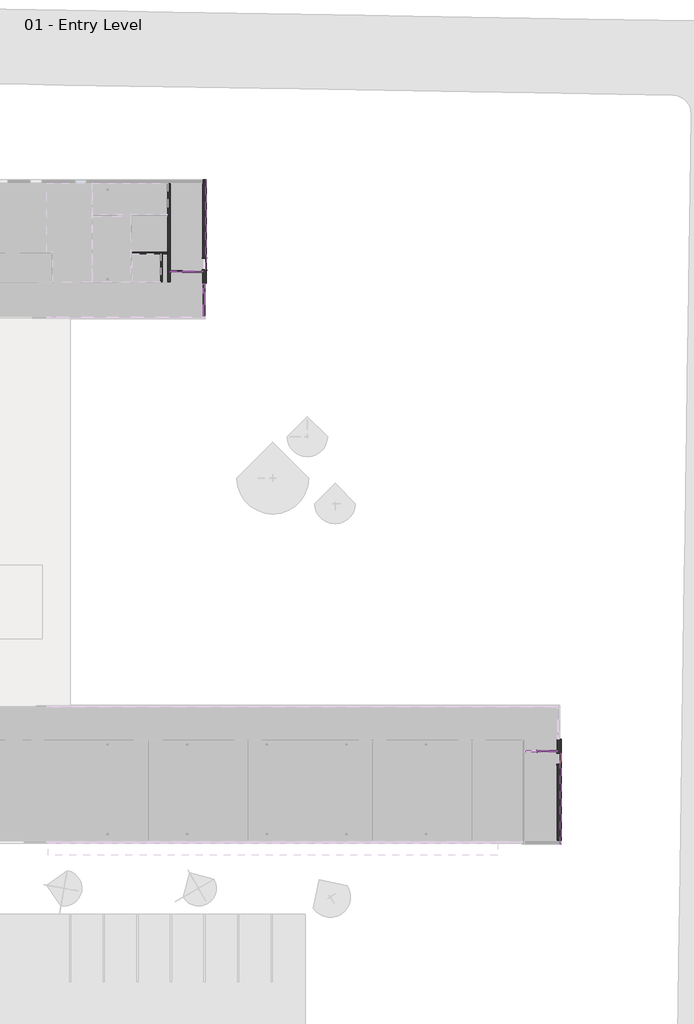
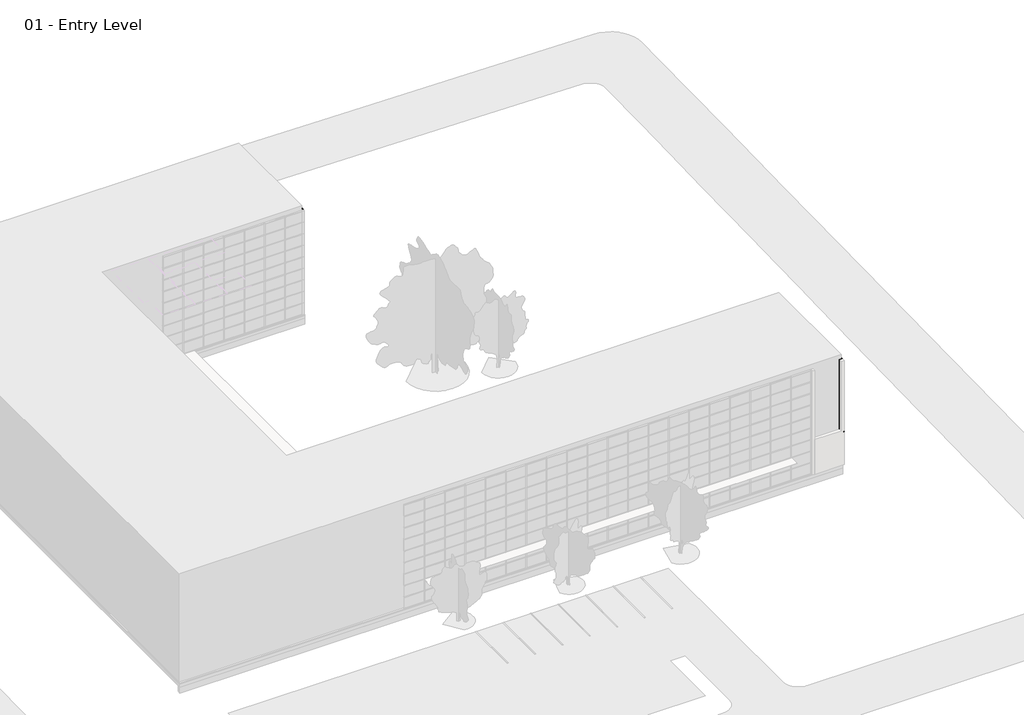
# One storey, part 31 of 35: 70 members, 22 plates, 5 walls, 4 proxies, 3 doors.
"""IFC4 building model written with IfcOpenShell, lengths in millimetres."""

from ifc_helpers import new_model, si_unit, frame, origin, origin_with_axes, place, context, project, spatial, polyline, outline, extrude, faceted_brep, transform, mapped, element, save
from components import curtain_wall_sgl_glass_curtain_wall_sgl_glass_c2d4b377, door_4e13689c, door_90af15fc, member_2b49869a, member_75074519, member_18e22e2d, member_9193c932, member_c33c434a, member_2ee2964b, member_9822c4e5, member_b50b2218, member_6186cc23, member_5d67b9fc, member_a50b3cda, member_c327c56d, member_410c6227, member_73c23c35, member_bcb6a316, member_d3323a85, member_7bd2cd2c, member_6be37683, member_e7b2e991, member_6c34f49c, member_dff87739, member_76223ac8, system_panel_glazed_bb8d5bd2, system_panel_glazed_f6796d4b, system_panel_glazed_d0ecad2d, system_panel_glazed_85a31dd6, system_panel_glazed_01db37db, system_panel_glazed_0a464ab8, system_panel_glazed_652e8fc4, system_panel_glazed_8dc8626f, system_panel_glazed_bb2f95a6, system_panel_glazed_de38c793, system_panel_glazed_3fe504bb, system_panel_glazed_00df446d

model = new_model("IFC4")

# Units and contexts
model_context = context("Model", 3, world=origin())
ifc_project = project(units=[si_unit("LENGTHUNIT", "METRE", prefix="MILLI")], contexts=[model_context])

# Site, building, storey
site = spatial("IfcSite", under=ifc_project)
building = spatial("IfcBuilding", under=site)
storey = spatial("IfcBuildingStorey", under=building, Name="01 - Entry Level", Elevation=0.0)

# Proxies
placement = place(None, origin())
element("IfcBuildingElementProxy", 1, Name="Reveal", ObjectType="Reveal", at=placement, inside=storey, context=model_context, shape_type="SweptSolid", body=[
    extrude(outline(polyline([(66310.7957476, -254.075), (66259.9957476, -254.075), (66259.9957476, 7204.0), (66310.7957476, 7204.0), (66310.7957476, -254.075)])), frame((0.0, 0.0, 3429.0), z_axis=(0.0, 0.0, 1.0), x_axis=(1.0, 0.0, 0.0)), (0.0, 0.0, 1.0), 76.2),
])
element("IfcBuildingElementProxy", 2, Name="Reveal", ObjectType="Reveal", at=placement, inside=storey, context=model_context, shape_type="SweptSolid", body=[
    extrude(outline(polyline([(66259.9957476, 2490.7125), (66310.7957476, 2490.7125), (66310.7957476, 2414.5125), (66259.9957476, 2414.5125), (66259.9957476, 2490.7125)])), origin_with_axes(), (0.0, 0.0, 1.0), 9753.6),
])
element("IfcBuildingElementProxy", 3, Name="Reveal", ObjectType="Reveal", at=placement, inside=storey, context=model_context, shape_type="SweptSolid", body=[
    extrude(outline(polyline([(37303.9957476, 51336.5), (37354.7957476, 51336.5), (37354.7957476, 51260.3), (37303.9957476, 51260.3), (37303.9957476, 51336.5)])), origin_with_axes(), (0.0, 0.0, 1.0), 9753.6),
])
element("IfcBuildingElementProxy", 4, Name="Reveal", ObjectType="Reveal", at=placement, inside=storey, context=model_context, shape_type="SweptSolid", body=[
    extrude(outline(polyline([(37354.7957476, 46675.6), (37303.9957476, 46675.6), (37303.9957476, 54032.075), (37354.7957476, 54032.075), (37354.7957476, 46675.6)])), frame((0.0, 0.0, 3581.4), z_axis=(0.0, 0.0, 1.0), x_axis=(1.0, 0.0, 0.0)), (0.0, 0.0, 1.0), 76.2),
])

# Doors
curtain_wall_sgl_glass_curtain_wall_sgl_glass_shape = curtain_wall_sgl_glass_curtain_wall_sgl_glass_c2d4b377(model_context)
element("IfcDoor", 5, ObjectType="Curtain Wall Sgl Glass : Curtain Wall Sgl Glass", at=placement, inside=storey, context=model_context, shape_type="MappedRepresentation", body=[
    mapped(curtain_wall_sgl_glass_curtain_wall_sgl_glass_shape, transform((34925.9207476, 46523.2, 0.0), x_axis=(-1.0, 0.0, 0.0), y_axis=(0.0, -1.0, 0.0), z_axis=(0.0, 0.0, 1.0))),
])
door_shape = door_4e13689c(model_context)
element("IfcDoor", 6, ObjectType="Single-Flush : 36\" x 84\"", at=placement, inside=storey, context=model_context, shape_type="MappedRepresentation", body=[
    mapped(door_shape, transform((37200.8082476, 47132.8, 0.0), x_axis=(0.0, -1.0, 0.0), y_axis=(1.0, 0.0, 0.0), z_axis=(0.0, 0.0, 1.0))),
])
door_2_shape = door_90af15fc(model_context)
element("IfcDoor", 7, ObjectType="Single-Flush : 36\" x 84\"", at=placement, inside=storey, context=model_context, shape_type="MappedRepresentation", body=[
    mapped(door_2_shape, transform((66156.8082476, 6746.8, 0.0), x_axis=(0.0, 1.0, 0.0), y_axis=(-1.0, 0.0, 0.0), z_axis=(0.0, 0.0, 1.0))),
])

# Members
member_shape = member_2b49869a(model_context)
element("IfcMember", 8, ObjectType="Rectangular Mullion : 2.5\" x 5\" rectangular", at=placement, inside=storey, context=model_context, shape_type="MappedRepresentation", body=[
    mapped(member_shape, transform((37148.4207476, 44783.3, 9753.6), x_axis=(0.0, 1.0, 0.0), y_axis=(1.0, 0.0, 0.0), z_axis=(0.0, 0.0, -1.0))),
])
member_2_shape = member_75074519(model_context)
element("IfcMember", 9, ObjectType="Rectangular Mullion : 2.5\" x 5\" rectangular", at=placement, inside=storey, context=model_context, shape_type="MappedRepresentation", body=[
    mapped(member_2_shape, transform((37148.4207476, 45545.3, 9753.6), x_axis=(0.0, 1.0, 0.0), y_axis=(1.0, 0.0, 0.0), z_axis=(0.0, 0.0, -1.0))),
])
member_3_shape = member_18e22e2d(model_context)
element("IfcMember", 10, ObjectType="Rectangular Mullion : 2.5\" x 5\" rectangular", at=placement, inside=storey, context=model_context, shape_type="MappedRepresentation", body=[
    mapped(member_3_shape, transform((35414.8707476, 46523.2, 2438.4), x_axis=(1.0, 0.0, 0.0), y_axis=(0.0, -1.0, 0.0), z_axis=(0.0, 0.0, -1.0))),
])
element("IfcMember", 11, ObjectType="Rectangular Mullion : 2.5\" x 5\" rectangular", at=placement, inside=storey, context=model_context, shape_type="MappedRepresentation", body=[
    mapped(member_3_shape, transform((64358.1707476, 7356.4, 2438.4), x_axis=(1.0, 0.0, 0.0), y_axis=(0.0, -1.0, 0.0), z_axis=(0.0, 0.0, -1.0))),
])
member_4_shape = member_9193c932(model_context)
element("IfcMember", 12, ObjectType="Rectangular Mullion : 2.5\" x 5\" rectangular", at=placement, inside=storey, context=model_context, shape_type="MappedRepresentation", body=[
    mapped(member_4_shape, transform((66002.8207476, 7356.4, 2438.4), x_axis=(1.0, 0.0, 0.0), y_axis=(0.0, -1.0, 0.0), z_axis=(0.0, 0.0, -1.0))),
])
element("IfcMember", 13, ObjectType="Rectangular Mullion : 2.5\" x 5\" rectangular", at=placement, inside=storey, context=model_context, shape_type="MappedRepresentation", body=[
    mapped(member_4_shape, transform((34405.2207476, 46523.2, 3403.6), x_axis=(-1.0, 0.0, 0.0), y_axis=(0.0, -1.0, 0.0), z_axis=(0.0, 0.0, 1.0))),
])
element("IfcMember", 14, ObjectType="Rectangular Mullion : 2.5\" x 5\" rectangular", at=placement, inside=storey, context=model_context, shape_type="MappedRepresentation", body=[
    mapped(member_4_shape, transform((37046.8207476, 46523.2, 2438.4), x_axis=(1.0, 0.0, 0.0), y_axis=(0.0, -1.0, 0.0), z_axis=(0.0, 0.0, -1.0))),
])
element("IfcMember", 15, ObjectType="Rectangular Mullion : 2.5\" x 5\" rectangular", at=placement, inside=storey, context=model_context, shape_type="MappedRepresentation", body=[
    mapped(member_shape, transform((37148.4207476, 44783.3, 0.0), x_axis=(0.0, 1.0, 0.0), y_axis=(1.0, 0.0, 0.0), z_axis=(0.0, 0.0, -1.0))),
])
element("IfcMember", 16, ObjectType="Rectangular Mullion : 2.5\" x 5\" rectangular", at=placement, inside=storey, context=model_context, shape_type="MappedRepresentation", body=[
    mapped(member_shape, transform((37148.4207476, 44783.3, 1219.2), x_axis=(0.0, 1.0, 0.0), y_axis=(1.0, 0.0, 0.0), z_axis=(0.0, 0.0, -1.0))),
])
element("IfcMember", 17, ObjectType="Rectangular Mullion : 2.5\" x 5\" rectangular", at=placement, inside=storey, context=model_context, shape_type="MappedRepresentation", body=[
    mapped(member_shape, transform((37148.4207476, 44783.3, 2438.4), x_axis=(0.0, 1.0, 0.0), y_axis=(1.0, 0.0, 0.0), z_axis=(0.0, 0.0, -1.0))),
])
element("IfcMember", 18, ObjectType="Rectangular Mullion : 2.5\" x 5\" rectangular", at=placement, inside=storey, context=model_context, shape_type="MappedRepresentation", body=[
    mapped(member_shape, transform((37148.4207476, 44783.3, 3657.6), x_axis=(0.0, 1.0, 0.0), y_axis=(1.0, 0.0, 0.0), z_axis=(0.0, 0.0, -1.0))),
])
element("IfcMember", 19, ObjectType="Rectangular Mullion : 2.5\" x 5\" rectangular", at=placement, inside=storey, context=model_context, shape_type="MappedRepresentation", body=[
    mapped(member_shape, transform((37148.4207476, 44783.3, 4876.8), x_axis=(0.0, 1.0, 0.0), y_axis=(1.0, 0.0, 0.0), z_axis=(0.0, 0.0, -1.0))),
])
element("IfcMember", 20, ObjectType="Rectangular Mullion : 2.5\" x 5\" rectangular", at=placement, inside=storey, context=model_context, shape_type="MappedRepresentation", body=[
    mapped(member_shape, transform((37148.4207476, 44783.3, 6096.0), x_axis=(0.0, 1.0, 0.0), y_axis=(1.0, 0.0, 0.0), z_axis=(0.0, 0.0, -1.0))),
])
element("IfcMember", 21, ObjectType="Rectangular Mullion : 2.5\" x 5\" rectangular", at=placement, inside=storey, context=model_context, shape_type="MappedRepresentation", body=[
    mapped(member_shape, transform((37148.4207476, 44783.3, 7315.2), x_axis=(0.0, 1.0, 0.0), y_axis=(1.0, 0.0, 0.0), z_axis=(0.0, 0.0, -1.0))),
])
element("IfcMember", 22, ObjectType="Rectangular Mullion : 2.5\" x 5\" rectangular", at=placement, inside=storey, context=model_context, shape_type="MappedRepresentation", body=[
    mapped(member_shape, transform((37148.4207476, 44783.3, 8534.4), x_axis=(0.0, 1.0, 0.0), y_axis=(1.0, 0.0, 0.0), z_axis=(0.0, 0.0, -1.0))),
])
member_5_shape = member_c33c434a(model_context)
element("IfcMember", 23, ObjectType="Rectangular Mullion : 2.5\" x 5\" rectangular", at=placement, inside=storey, context=model_context, shape_type="MappedRepresentation", body=[
    mapped(member_5_shape, transform((37148.4207476, 45481.8, 10972.8), x_axis=(0.0, 0.0, 1.0), y_axis=(1.0, 0.0, 0.0), z_axis=(0.0, 1.0, 0.0))),
])
element("IfcMember", 24, ObjectType="Rectangular Mullion : 2.5\" x 5\" rectangular", at=placement, inside=storey, context=model_context, shape_type="MappedRepresentation", body=[
    mapped(member_5_shape, transform((37148.4207476, 44815.05, 0.0), x_axis=(0.0, 0.0, -1.0), y_axis=(1.0, 0.0, 0.0), z_axis=(0.0, -1.0, 0.0))),
])
member_6_shape = member_2ee2964b(model_context)
element("IfcMember", 25, ObjectType="Rectangular Mullion : 2.5\" x 5\" rectangular", at=placement, inside=storey, context=model_context, shape_type="MappedRepresentation", body=[
    mapped(member_6_shape, transform((37148.4207476, 45481.8, 1219.2), x_axis=(0.0, 0.0, 1.0), y_axis=(1.0, 0.0, 0.0), z_axis=(0.0, 1.0, 0.0))),
])
element("IfcMember", 26, ObjectType="Rectangular Mullion : 2.5\" x 5\" rectangular", at=placement, inside=storey, context=model_context, shape_type="MappedRepresentation", body=[
    mapped(member_6_shape, transform((37148.4207476, 45481.8, 2438.4), x_axis=(0.0, 0.0, 1.0), y_axis=(1.0, 0.0, 0.0), z_axis=(0.0, 1.0, 0.0))),
])
element("IfcMember", 27, ObjectType="Rectangular Mullion : 2.5\" x 5\" rectangular", at=placement, inside=storey, context=model_context, shape_type="MappedRepresentation", body=[
    mapped(member_6_shape, transform((37148.4207476, 45481.8, 3657.6), x_axis=(0.0, 0.0, 1.0), y_axis=(1.0, 0.0, 0.0), z_axis=(0.0, 1.0, 0.0))),
])
element("IfcMember", 28, ObjectType="Rectangular Mullion : 2.5\" x 5\" rectangular", at=placement, inside=storey, context=model_context, shape_type="MappedRepresentation", body=[
    mapped(member_6_shape, transform((37148.4207476, 45481.8, 4876.8), x_axis=(0.0, 0.0, 1.0), y_axis=(1.0, 0.0, 0.0), z_axis=(0.0, 1.0, 0.0))),
])
element("IfcMember", 29, ObjectType="Rectangular Mullion : 2.5\" x 5\" rectangular", at=placement, inside=storey, context=model_context, shape_type="MappedRepresentation", body=[
    mapped(member_6_shape, transform((37148.4207476, 45481.8, 6096.0), x_axis=(0.0, 0.0, 1.0), y_axis=(1.0, 0.0, 0.0), z_axis=(0.0, 1.0, 0.0))),
])
element("IfcMember", 30, ObjectType="Rectangular Mullion : 2.5\" x 5\" rectangular", at=placement, inside=storey, context=model_context, shape_type="MappedRepresentation", body=[
    mapped(member_6_shape, transform((37148.4207476, 45481.8, 7315.2), x_axis=(0.0, 0.0, 1.0), y_axis=(1.0, 0.0, 0.0), z_axis=(0.0, 1.0, 0.0))),
])
element("IfcMember", 31, ObjectType="Rectangular Mullion : 2.5\" x 5\" rectangular", at=placement, inside=storey, context=model_context, shape_type="MappedRepresentation", body=[
    mapped(member_6_shape, transform((37148.4207476, 45481.8, 8534.4), x_axis=(0.0, 0.0, 1.0), y_axis=(1.0, 0.0, 0.0), z_axis=(0.0, 1.0, 0.0))),
])
element("IfcMember", 32, ObjectType="Rectangular Mullion : 2.5\" x 5\" rectangular", at=placement, inside=storey, context=model_context, shape_type="MappedRepresentation", body=[
    mapped(member_6_shape, transform((37148.4207476, 45481.8, 9753.6), x_axis=(0.0, 0.0, 1.0), y_axis=(1.0, 0.0, 0.0), z_axis=(0.0, 1.0, 0.0))),
])
element("IfcMember", 33, ObjectType="Rectangular Mullion : 2.5\" x 5\" rectangular", at=placement, inside=storey, context=model_context, shape_type="MappedRepresentation", body=[
    mapped(member_2_shape, transform((37148.4207476, 45545.3, 0.0), x_axis=(0.0, 1.0, 0.0), y_axis=(1.0, 0.0, 0.0), z_axis=(0.0, 0.0, -1.0))),
])
element("IfcMember", 34, ObjectType="Rectangular Mullion : 2.5\" x 5\" rectangular", at=placement, inside=storey, context=model_context, shape_type="MappedRepresentation", body=[
    mapped(member_2_shape, transform((37148.4207476, 45545.3, 1219.2), x_axis=(0.0, 1.0, 0.0), y_axis=(1.0, 0.0, 0.0), z_axis=(0.0, 0.0, -1.0))),
])
element("IfcMember", 35, ObjectType="Rectangular Mullion : 2.5\" x 5\" rectangular", at=placement, inside=storey, context=model_context, shape_type="MappedRepresentation", body=[
    mapped(member_2_shape, transform((37148.4207476, 45545.3, 2438.4), x_axis=(0.0, 1.0, 0.0), y_axis=(1.0, 0.0, 0.0), z_axis=(0.0, 0.0, -1.0))),
])
element("IfcMember", 36, ObjectType="Rectangular Mullion : 2.5\" x 5\" rectangular", at=placement, inside=storey, context=model_context, shape_type="MappedRepresentation", body=[
    mapped(member_2_shape, transform((37148.4207476, 45545.3, 3657.6), x_axis=(0.0, 1.0, 0.0), y_axis=(1.0, 0.0, 0.0), z_axis=(0.0, 0.0, -1.0))),
])
element("IfcMember", 37, ObjectType="Rectangular Mullion : 2.5\" x 5\" rectangular", at=placement, inside=storey, context=model_context, shape_type="MappedRepresentation", body=[
    mapped(member_2_shape, transform((37148.4207476, 45545.3, 4876.8), x_axis=(0.0, 1.0, 0.0), y_axis=(1.0, 0.0, 0.0), z_axis=(0.0, 0.0, -1.0))),
])
element("IfcMember", 38, ObjectType="Rectangular Mullion : 2.5\" x 5\" rectangular", at=placement, inside=storey, context=model_context, shape_type="MappedRepresentation", body=[
    mapped(member_2_shape, transform((37148.4207476, 45545.3, 6096.0), x_axis=(0.0, 1.0, 0.0), y_axis=(1.0, 0.0, 0.0), z_axis=(0.0, 0.0, -1.0))),
])
element("IfcMember", 39, ObjectType="Rectangular Mullion : 2.5\" x 5\" rectangular", at=placement, inside=storey, context=model_context, shape_type="MappedRepresentation", body=[
    mapped(member_2_shape, transform((37148.4207476, 45545.3, 7315.2), x_axis=(0.0, 1.0, 0.0), y_axis=(1.0, 0.0, 0.0), z_axis=(0.0, 0.0, -1.0))),
])
element("IfcMember", 40, ObjectType="Rectangular Mullion : 2.5\" x 5\" rectangular", at=placement, inside=storey, context=model_context, shape_type="MappedRepresentation", body=[
    mapped(member_2_shape, transform((37148.4207476, 45545.3, 8534.4), x_axis=(0.0, 1.0, 0.0), y_axis=(1.0, 0.0, 0.0), z_axis=(0.0, 0.0, -1.0))),
])
member_7_shape = member_9822c4e5(model_context)
element("IfcMember", 41, ObjectType="Rectangular Mullion : 2.5\" x 5\" rectangular", at=placement, inside=storey, context=model_context, shape_type="MappedRepresentation", body=[
    mapped(member_7_shape, transform((37148.4207476, 44751.55, 10972.8), x_axis=(0.0, 0.0, 1.0), y_axis=(1.0, 0.0, 0.0), z_axis=(0.0, 1.0, 0.0))),
])
member_8_shape = member_b50b2218(model_context)
element("IfcMember", 42, ObjectType="Rectangular Mullion : 2.5\" x 5\" rectangular", at=placement, inside=storey, context=model_context, shape_type="MappedRepresentation", body=[
    mapped(member_8_shape, transform((37148.4207476, 44751.55, 1219.2), x_axis=(0.0, 0.0, 1.0), y_axis=(1.0, 0.0, 0.0), z_axis=(0.0, 1.0, 0.0))),
])
element("IfcMember", 43, ObjectType="Rectangular Mullion : 2.5\" x 5\" rectangular", at=placement, inside=storey, context=model_context, shape_type="MappedRepresentation", body=[
    mapped(member_8_shape, transform((37148.4207476, 44751.55, 2438.4), x_axis=(0.0, 0.0, 1.0), y_axis=(1.0, 0.0, 0.0), z_axis=(0.0, 1.0, 0.0))),
])
element("IfcMember", 44, ObjectType="Rectangular Mullion : 2.5\" x 5\" rectangular", at=placement, inside=storey, context=model_context, shape_type="MappedRepresentation", body=[
    mapped(member_8_shape, transform((37148.4207476, 44751.55, 3657.6), x_axis=(0.0, 0.0, 1.0), y_axis=(1.0, 0.0, 0.0), z_axis=(0.0, 1.0, 0.0))),
])
element("IfcMember", 45, ObjectType="Rectangular Mullion : 2.5\" x 5\" rectangular", at=placement, inside=storey, context=model_context, shape_type="MappedRepresentation", body=[
    mapped(member_8_shape, transform((37148.4207476, 44751.55, 4876.8), x_axis=(0.0, 0.0, 1.0), y_axis=(1.0, 0.0, 0.0), z_axis=(0.0, 1.0, 0.0))),
])
element("IfcMember", 46, ObjectType="Rectangular Mullion : 2.5\" x 5\" rectangular", at=placement, inside=storey, context=model_context, shape_type="MappedRepresentation", body=[
    mapped(member_8_shape, transform((37148.4207476, 44751.55, 6096.0), x_axis=(0.0, 0.0, 1.0), y_axis=(1.0, 0.0, 0.0), z_axis=(0.0, 1.0, 0.0))),
])
element("IfcMember", 47, ObjectType="Rectangular Mullion : 2.5\" x 5\" rectangular", at=placement, inside=storey, context=model_context, shape_type="MappedRepresentation", body=[
    mapped(member_8_shape, transform((37148.4207476, 44751.55, 7315.2), x_axis=(0.0, 0.0, 1.0), y_axis=(1.0, 0.0, 0.0), z_axis=(0.0, 1.0, 0.0))),
])
element("IfcMember", 48, ObjectType="Rectangular Mullion : 2.5\" x 5\" rectangular", at=placement, inside=storey, context=model_context, shape_type="MappedRepresentation", body=[
    mapped(member_8_shape, transform((37148.4207476, 44751.55, 8534.4), x_axis=(0.0, 0.0, 1.0), y_axis=(1.0, 0.0, 0.0), z_axis=(0.0, 1.0, 0.0))),
])
element("IfcMember", 49, ObjectType="Rectangular Mullion : 2.5\" x 5\" rectangular", at=placement, inside=storey, context=model_context, shape_type="MappedRepresentation", body=[
    mapped(member_8_shape, transform((37148.4207476, 44751.55, 9753.6), x_axis=(0.0, 0.0, 1.0), y_axis=(1.0, 0.0, 0.0), z_axis=(0.0, 1.0, 0.0))),
])
member_9_shape = member_6186cc23(model_context)
element("IfcMember", 50, ObjectType="Rectangular Mullion : 2.5\" x 5\" rectangular", at=placement, inside=storey, context=model_context, shape_type="MappedRepresentation", body=[
    mapped(member_9_shape, transform((35414.8707476, 46523.2, 0.0), x_axis=(1.0, 0.0, 0.0), y_axis=(0.0, -1.0, 0.0), z_axis=(0.0, 0.0, -1.0))),
])
member_10_shape = member_5d67b9fc(model_context)
element("IfcMember", 51, ObjectType="Rectangular Mullion : 2.5\" x 5\" rectangular", at=placement, inside=storey, context=model_context, shape_type="MappedRepresentation", body=[
    mapped(member_10_shape, transform((35414.8707476, 46523.2, 2165.35), x_axis=(1.0, 0.0, 0.0), y_axis=(0.0, -1.0, 0.0), z_axis=(0.0, 0.0, -1.0))),
])
member_11_shape = member_a50b3cda(model_context)
element("IfcMember", 52, ObjectType="Rectangular Mullion : 2.5\" x 5\" rectangular", at=placement, inside=storey, context=model_context, shape_type="MappedRepresentation", body=[
    mapped(member_11_shape, transform((37046.8207476, 46523.2, 0.0), x_axis=(1.0, 0.0, 0.0), y_axis=(0.0, -1.0, 0.0), z_axis=(0.0, 0.0, -1.0))),
])
member_12_shape = member_c327c56d(model_context)
element("IfcMember", 53, ObjectType="Rectangular Mullion : 2.5\" x 5\" rectangular", at=placement, inside=storey, context=model_context, shape_type="MappedRepresentation", body=[
    mapped(member_12_shape, transform((37046.8207476, 46523.2, 2165.35), x_axis=(1.0, 0.0, 0.0), y_axis=(0.0, -1.0, 0.0), z_axis=(0.0, 0.0, -1.0))),
])
member_13_shape = member_410c6227(model_context)
element("IfcMember", 54, ObjectType="Rectangular Mullion : 2.5\" x 5\" rectangular", at=placement, inside=storey, context=model_context, shape_type="MappedRepresentation", body=[
    mapped(member_13_shape, transform((35383.1207476, 46523.2, 2438.4), x_axis=(0.0, 0.0, 1.0), y_axis=(0.0, -1.0, 0.0), z_axis=(1.0, 0.0, 0.0))),
])
element("IfcMember", 55, ObjectType="Rectangular Mullion : 2.5\" x 5\" rectangular", at=placement, inside=storey, context=model_context, shape_type="MappedRepresentation", body=[
    mapped(member_13_shape, transform((35383.1207476, 46523.2, 2165.35), x_axis=(0.0, 0.0, 1.0), y_axis=(0.0, -1.0, 0.0), z_axis=(1.0, 0.0, 0.0))),
])
member_14_shape = member_73c23c35(model_context)
element("IfcMember", 56, ObjectType="Rectangular Mullion : 2.5\" x 5\" rectangular", at=placement, inside=storey, context=model_context, shape_type="MappedRepresentation", body=[
    mapped(member_14_shape, transform((35383.1207476, 46523.2, 3403.6), x_axis=(0.0, 0.0, 1.0), y_axis=(0.0, -1.0, 0.0), z_axis=(1.0, 0.0, 0.0))),
])
element("IfcMember", 57, ObjectType="Rectangular Mullion : 2.5\" x 5\" rectangular", at=placement, inside=storey, context=model_context, shape_type="MappedRepresentation", body=[
    mapped(member_12_shape, transform((34405.2207476, 46523.2, 2438.4), x_axis=(-1.0, 0.0, 0.0), y_axis=(0.0, -1.0, 0.0), z_axis=(0.0, 0.0, 1.0))),
])
element("IfcMember", 58, ObjectType="Rectangular Mullion : 2.5\" x 5\" rectangular", at=placement, inside=storey, context=model_context, shape_type="MappedRepresentation", body=[
    mapped(member_11_shape, transform((34405.2207476, 46523.2, 2165.35), x_axis=(-1.0, 0.0, 0.0), y_axis=(0.0, -1.0, 0.0), z_axis=(0.0, 0.0, 1.0))),
])
member_15_shape = member_bcb6a316(model_context)
element("IfcMember", 59, ObjectType="Rectangular Mullion : 2.5\" x 5\" rectangular", at=placement, inside=storey, context=model_context, shape_type="MappedRepresentation", body=[
    mapped(member_15_shape, transform((35726.0207476, 46523.2, 0.0), x_axis=(0.0, 0.0, -1.0), y_axis=(0.0, -1.0, 0.0), z_axis=(-1.0, 0.0, 0.0))),
])
member_16_shape = member_d3323a85(model_context)
element("IfcMember", 60, ObjectType="Rectangular Mullion : 2.5\" x 5\" rectangular", at=placement, inside=storey, context=model_context, shape_type="MappedRepresentation", body=[
    mapped(member_16_shape, transform((35446.6207476, 46523.2, 0.0), x_axis=(0.0, 0.0, -1.0), y_axis=(0.0, -1.0, 0.0), z_axis=(-1.0, 0.0, 0.0))),
])
element("IfcMember", 61, ObjectType="Rectangular Mullion : 2.5\" x 5\" rectangular", at=placement, inside=storey, context=model_context, shape_type="MappedRepresentation", body=[
    mapped(member_15_shape, transform((36983.3207476, 46523.2, 3403.6), x_axis=(0.0, 0.0, 1.0), y_axis=(0.0, -1.0, 0.0), z_axis=(1.0, 0.0, 0.0))),
])
element("IfcMember", 62, ObjectType="Rectangular Mullion : 2.5\" x 5\" rectangular", at=placement, inside=storey, context=model_context, shape_type="MappedRepresentation", body=[
    mapped(member_16_shape, transform((35726.0207476, 46523.2, 3403.6), x_axis=(0.0, 0.0, 1.0), y_axis=(0.0, -1.0, 0.0), z_axis=(1.0, 0.0, 0.0))),
])
member_17_shape = member_7bd2cd2c(model_context)
element("IfcMember", 63, ObjectType="Rectangular Mullion : 2.5\" x 5\" rectangular", at=placement, inside=storey, context=model_context, shape_type="MappedRepresentation", body=[
    mapped(member_17_shape, transform((36983.3207476, 46523.2, 2438.4), x_axis=(0.0, 0.0, 1.0), y_axis=(0.0, -1.0, 0.0), z_axis=(1.0, 0.0, 0.0))),
])
member_18_shape = member_6be37683(model_context)
element("IfcMember", 64, ObjectType="Rectangular Mullion : 2.5\" x 5\" rectangular", at=placement, inside=storey, context=model_context, shape_type="MappedRepresentation", body=[
    mapped(member_18_shape, transform((35726.0207476, 46523.2, 2438.4), x_axis=(0.0, 0.0, 1.0), y_axis=(0.0, -1.0, 0.0), z_axis=(1.0, 0.0, 0.0))),
])
element("IfcMember", 65, ObjectType="Rectangular Mullion : 2.5\" x 5\" rectangular", at=placement, inside=storey, context=model_context, shape_type="MappedRepresentation", body=[
    mapped(member_13_shape, transform((64326.4207476, 7356.4, 2438.4), x_axis=(0.0, 0.0, 1.0), y_axis=(0.0, -1.0, 0.0), z_axis=(1.0, 0.0, 0.0))),
])
element("IfcMember", 66, ObjectType="Rectangular Mullion : 2.5\" x 5\" rectangular", at=placement, inside=storey, context=model_context, shape_type="MappedRepresentation", body=[
    mapped(member_13_shape, transform((64326.4207476, 7356.4, 2165.35), x_axis=(0.0, 0.0, 1.0), y_axis=(0.0, -1.0, 0.0), z_axis=(1.0, 0.0, 0.0))),
])
element("IfcMember", 67, ObjectType="Rectangular Mullion : 2.5\" x 5\" rectangular", at=placement, inside=storey, context=model_context, shape_type="MappedRepresentation", body=[
    mapped(member_14_shape, transform((64326.4207476, 7356.4, 3403.6), x_axis=(0.0, 0.0, 1.0), y_axis=(0.0, -1.0, 0.0), z_axis=(1.0, 0.0, 0.0))),
])
element("IfcMember", 68, ObjectType="Rectangular Mullion : 2.5\" x 5\" rectangular", at=placement, inside=storey, context=model_context, shape_type="MappedRepresentation", body=[
    mapped(member_9_shape, transform((64358.1707476, 7356.4, 0.0), x_axis=(1.0, 0.0, 0.0), y_axis=(0.0, -1.0, 0.0), z_axis=(0.0, 0.0, -1.0))),
])
element("IfcMember", 69, ObjectType="Rectangular Mullion : 2.5\" x 5\" rectangular", at=placement, inside=storey, context=model_context, shape_type="MappedRepresentation", body=[
    mapped(member_10_shape, transform((64358.1707476, 7356.4, 2165.35), x_axis=(1.0, 0.0, 0.0), y_axis=(0.0, -1.0, 0.0), z_axis=(0.0, 0.0, -1.0))),
])
element("IfcMember", 70, ObjectType="Rectangular Mullion : 2.5\" x 5\" rectangular", at=placement, inside=storey, context=model_context, shape_type="MappedRepresentation", body=[
    mapped(member_11_shape, transform((66002.8207476, 7356.4, 0.0), x_axis=(1.0, 0.0, 0.0), y_axis=(0.0, -1.0, 0.0), z_axis=(0.0, 0.0, -1.0))),
])
element("IfcMember", 71, ObjectType="Rectangular Mullion : 2.5\" x 5\" rectangular", at=placement, inside=storey, context=model_context, shape_type="MappedRepresentation", body=[
    mapped(member_12_shape, transform((66002.8207476, 7356.4, 2165.35), x_axis=(1.0, 0.0, 0.0), y_axis=(0.0, -1.0, 0.0), z_axis=(0.0, 0.0, -1.0))),
])
member_19_shape = member_e7b2e991(model_context)
element("IfcMember", 72, ObjectType="Rectangular Mullion : 2.5\" x 5\" rectangular", at=placement, inside=storey, context=model_context, shape_type="MappedRepresentation", body=[
    mapped(member_19_shape, transform((64675.6707476, 7356.4, 0.0), x_axis=(0.0, 0.0, -1.0), y_axis=(0.0, -1.0, 0.0), z_axis=(-1.0, 0.0, 0.0))),
])
member_20_shape = member_6c34f49c(model_context)
element("IfcMember", 73, ObjectType="Rectangular Mullion : 2.5\" x 5\" rectangular", at=placement, inside=storey, context=model_context, shape_type="MappedRepresentation", body=[
    mapped(member_20_shape, transform((64389.9207476, 7356.4, 0.0), x_axis=(0.0, 0.0, -1.0), y_axis=(0.0, -1.0, 0.0), z_axis=(-1.0, 0.0, 0.0))),
])
member_21_shape = member_dff87739(model_context)
element("IfcMember", 74, ObjectType="Rectangular Mullion : 2.5\" x 5\" rectangular", at=placement, inside=storey, context=model_context, shape_type="MappedRepresentation", body=[
    mapped(member_21_shape, transform((64675.6707476, 7356.4, 2438.4), x_axis=(0.0, 0.0, 1.0), y_axis=(0.0, -1.0, 0.0), z_axis=(1.0, 0.0, 0.0))),
])
member_22_shape = member_76223ac8(model_context)
element("IfcMember", 75, ObjectType="Rectangular Mullion : 2.5\" x 5\" rectangular", at=placement, inside=storey, context=model_context, shape_type="MappedRepresentation", body=[
    mapped(member_22_shape, transform((65939.3207476, 7356.4, 2438.4), x_axis=(0.0, 0.0, 1.0), y_axis=(0.0, -1.0, 0.0), z_axis=(1.0, 0.0, 0.0))),
])
element("IfcMember", 76, ObjectType="Rectangular Mullion : 2.5\" x 5\" rectangular", at=placement, inside=storey, context=model_context, shape_type="MappedRepresentation", body=[
    mapped(member_19_shape, transform((65939.3207476, 7356.4, 3403.6), x_axis=(0.0, 0.0, 1.0), y_axis=(0.0, -1.0, 0.0), z_axis=(1.0, 0.0, 0.0))),
])
element("IfcMember", 77, ObjectType="Rectangular Mullion : 2.5\" x 5\" rectangular", at=placement, inside=storey, context=model_context, shape_type="MappedRepresentation", body=[
    mapped(member_20_shape, transform((64675.6707476, 7356.4, 3403.6), x_axis=(0.0, 0.0, 1.0), y_axis=(0.0, -1.0, 0.0), z_axis=(1.0, 0.0, 0.0))),
])

# Plates
system_panel_glazed_shape = system_panel_glazed_bb8d5bd2(model_context)
element("IfcPlate", 78, ObjectType="System Panel : Glazed", at=placement, inside=storey, context=model_context, shape_type="MappedRepresentation", body=[
    mapped(system_panel_glazed_shape, transform((37148.4207476, 45148.425, 63.5), x_axis=(0.0, 1.0, 0.0), y_axis=(-1.0, 0.0, 0.0), z_axis=(0.0, 0.0, 1.0))),
])
element("IfcPlate", 79, ObjectType="System Panel : Glazed", at=placement, inside=storey, context=model_context, shape_type="MappedRepresentation", body=[
    mapped(system_panel_glazed_shape, transform((37148.4207476, 45148.425, 9785.35), x_axis=(0.0, 1.0, 0.0), y_axis=(-1.0, 0.0, 0.0), z_axis=(0.0, 0.0, 1.0))),
])
system_panel_glazed_2_shape = system_panel_glazed_f6796d4b(model_context)
element("IfcPlate", 80, ObjectType="System Panel : Glazed", at=placement, inside=storey, context=model_context, shape_type="MappedRepresentation", body=[
    mapped(system_panel_glazed_2_shape, transform((37148.4207476, 45148.425, 1250.95), x_axis=(0.0, 1.0, 0.0), y_axis=(-1.0, 0.0, 0.0), z_axis=(0.0, 0.0, 1.0))),
])
element("IfcPlate", 81, ObjectType="System Panel : Glazed", at=placement, inside=storey, context=model_context, shape_type="MappedRepresentation", body=[
    mapped(system_panel_glazed_2_shape, transform((37148.4207476, 45148.425, 2470.15), x_axis=(0.0, 1.0, 0.0), y_axis=(-1.0, 0.0, 0.0), z_axis=(0.0, 0.0, 1.0))),
])
element("IfcPlate", 82, ObjectType="System Panel : Glazed", at=placement, inside=storey, context=model_context, shape_type="MappedRepresentation", body=[
    mapped(system_panel_glazed_2_shape, transform((37148.4207476, 45148.425, 3689.35), x_axis=(0.0, 1.0, 0.0), y_axis=(-1.0, 0.0, 0.0), z_axis=(0.0, 0.0, 1.0))),
])
element("IfcPlate", 83, ObjectType="System Panel : Glazed", at=placement, inside=storey, context=model_context, shape_type="MappedRepresentation", body=[
    mapped(system_panel_glazed_2_shape, transform((37148.4207476, 45148.425, 4908.55), x_axis=(0.0, 1.0, 0.0), y_axis=(-1.0, 0.0, 0.0), z_axis=(0.0, 0.0, 1.0))),
])
element("IfcPlate", 84, ObjectType="System Panel : Glazed", at=placement, inside=storey, context=model_context, shape_type="MappedRepresentation", body=[
    mapped(system_panel_glazed_2_shape, transform((37148.4207476, 45148.425, 6127.75), x_axis=(0.0, 1.0, 0.0), y_axis=(-1.0, 0.0, 0.0), z_axis=(0.0, 0.0, 1.0))),
])
element("IfcPlate", 85, ObjectType="System Panel : Glazed", at=placement, inside=storey, context=model_context, shape_type="MappedRepresentation", body=[
    mapped(system_panel_glazed_2_shape, transform((37148.4207476, 45148.425, 7346.95), x_axis=(0.0, 1.0, 0.0), y_axis=(-1.0, 0.0, 0.0), z_axis=(0.0, 0.0, 1.0))),
])
element("IfcPlate", 86, ObjectType="System Panel : Glazed", at=placement, inside=storey, context=model_context, shape_type="MappedRepresentation", body=[
    mapped(system_panel_glazed_2_shape, transform((37148.4207476, 45148.425, 8566.15), x_axis=(0.0, 1.0, 0.0), y_axis=(-1.0, 0.0, 0.0), z_axis=(0.0, 0.0, 1.0))),
])
system_panel_glazed_3_shape = system_panel_glazed_d0ecad2d(model_context)
element("IfcPlate", 87, ObjectType="System Panel : Glazed", at=placement, inside=storey, context=model_context, shape_type="MappedRepresentation", body=[
    mapped(system_panel_glazed_3_shape, transform((66104.4207476, 8667.675, 63.5), x_axis=(0.0, 1.0, 0.0), y_axis=(-1.0, 0.0, 0.0), z_axis=(0.0, 0.0, 1.0))),
])
system_panel_glazed_4_shape = system_panel_glazed_85a31dd6(model_context)
element("IfcPlate", 88, ObjectType="System Panel : Glazed", at=placement, inside=storey, context=model_context, shape_type="MappedRepresentation", body=[
    mapped(system_panel_glazed_4_shape, transform((66104.4207476, 8667.675, 1250.95), x_axis=(0.0, 1.0, 0.0), y_axis=(-1.0, 0.0, 0.0), z_axis=(0.0, 0.0, 1.0))),
])
element("IfcPlate", 89, ObjectType="System Panel : Glazed", at=placement, inside=storey, context=model_context, shape_type="MappedRepresentation", body=[
    mapped(system_panel_glazed_4_shape, transform((66104.4207476, 8667.675, 2470.15), x_axis=(0.0, 1.0, 0.0), y_axis=(-1.0, 0.0, 0.0), z_axis=(0.0, 0.0, 1.0))),
])
element("IfcPlate", 90, ObjectType="System Panel : Glazed", at=placement, inside=storey, context=model_context, shape_type="MappedRepresentation", body=[
    mapped(system_panel_glazed_4_shape, transform((66104.4207476, 8667.675, 3689.35), x_axis=(0.0, 1.0, 0.0), y_axis=(-1.0, 0.0, 0.0), z_axis=(0.0, 0.0, 1.0))),
])
system_panel_glazed_5_shape = system_panel_glazed_01db37db(model_context)
element("IfcPlate", 91, ObjectType="System Panel : Glazed", at=placement, inside=storey, context=model_context, shape_type="MappedRepresentation", body=[
    mapped(system_panel_glazed_5_shape, transform((37148.4207476, 43814.925, 9785.35), x_axis=(0.0, 1.0, 0.0), y_axis=(-1.0, 0.0, 0.0), z_axis=(0.0, 0.0, 1.0))),
])
system_panel_glazed_6_shape = system_panel_glazed_0a464ab8(model_context)
element("IfcPlate", 92, ObjectType="System Panel : Glazed", at=placement, inside=storey, context=model_context, shape_type="MappedRepresentation", body=[
    mapped(system_panel_glazed_6_shape, transform((37148.4207476, 43814.925, 7346.95), x_axis=(0.0, 1.0, 0.0), y_axis=(-1.0, 0.0, 0.0), z_axis=(0.0, 0.0, 1.0))),
])
element("IfcPlate", 93, ObjectType="System Panel : Glazed", at=placement, inside=storey, context=model_context, shape_type="MappedRepresentation", body=[
    mapped(system_panel_glazed_6_shape, transform((37148.4207476, 43814.925, 8566.15), x_axis=(0.0, 1.0, 0.0), y_axis=(-1.0, 0.0, 0.0), z_axis=(0.0, 0.0, 1.0))),
])
system_panel_glazed_7_shape = system_panel_glazed_652e8fc4(model_context)
element("IfcPlate", 94, ObjectType="System Panel : Glazed", at=placement, inside=storey, context=model_context, shape_type="MappedRepresentation", body=[
    mapped(system_panel_glazed_7_shape, transform((34925.9207476, 46523.2, 2470.15), x_axis=(1.0, 0.0, 0.0), y_axis=(0.0, 1.0, 0.0), z_axis=(0.0, 0.0, 1.0))),
])
system_panel_glazed_8_shape = system_panel_glazed_8dc8626f(model_context)
element("IfcPlate", 95, ObjectType="System Panel : Glazed", at=placement, inside=storey, context=model_context, shape_type="MappedRepresentation", body=[
    mapped(system_panel_glazed_8_shape, transform((34925.9207476, 46523.2, 2197.1), x_axis=(1.0, 0.0, 0.0), y_axis=(0.0, 1.0, 0.0), z_axis=(0.0, 0.0, 1.0))),
])
system_panel_glazed_9_shape = system_panel_glazed_bb2f95a6(model_context)
element("IfcPlate", 96, ObjectType="System Panel : Glazed", at=placement, inside=storey, context=model_context, shape_type="MappedRepresentation", body=[
    mapped(system_panel_glazed_9_shape, transform((36214.9707476, 46523.2, 63.5), x_axis=(1.0, 0.0, 0.0), y_axis=(0.0, 1.0, 0.0), z_axis=(0.0, 0.0, 1.0))),
])
system_panel_glazed_10_shape = system_panel_glazed_de38c793(model_context)
element("IfcPlate", 97, ObjectType="System Panel : Glazed", at=placement, inside=storey, context=model_context, shape_type="MappedRepresentation", body=[
    mapped(system_panel_glazed_10_shape, transform((36214.9707476, 46523.2, 2470.15), x_axis=(1.0, 0.0, 0.0), y_axis=(0.0, 1.0, 0.0), z_axis=(0.0, 0.0, 1.0))),
])
system_panel_glazed_11_shape = system_panel_glazed_3fe504bb(model_context)
element("IfcPlate", 98, ObjectType="System Panel : Glazed", at=placement, inside=storey, context=model_context, shape_type="MappedRepresentation", body=[
    mapped(system_panel_glazed_11_shape, transform((65164.6207476, 7356.4, 2470.15), x_axis=(1.0, 0.0, 0.0), y_axis=(0.0, 1.0, 0.0), z_axis=(0.0, 0.0, 1.0))),
])
system_panel_glazed_12_shape = system_panel_glazed_00df446d(model_context)
element("IfcPlate", 99, ObjectType="System Panel : Glazed", at=placement, inside=storey, context=model_context, shape_type="MappedRepresentation", body=[
    mapped(system_panel_glazed_12_shape, transform((65164.6207476, 7356.4, 63.5), x_axis=(1.0, 0.0, 0.0), y_axis=(0.0, 1.0, 0.0), z_axis=(0.0, 0.0, 1.0))),
])

# Walls
element("IfcWall", 100, ObjectType="Exterior - EIFS on CMU", at=placement, inside=storey, context=model_context, shape_type="Brep", body=[
    faceted_brep([(66310.7957476, 8334.3, 0.0), (66310.7957476, 8334.3, 10972.8), (66310.7957476, 53.9, 10972.8), (66310.7957476, 53.9, 3505.2), (66310.7957476, 2414.5125, 3505.2), (66310.7957476, 2414.5125, 9753.6), (66310.7957476, 2490.7125, 9753.6), (66310.7957476, 2490.7125, 3505.2), (66310.7957476, 7204.0, 3505.2), (66310.7957476, 7204.0, 3429.0), (66310.7957476, 2490.7125, 3429.0), (66310.7957476, 2490.7125, 0.0), (66310.7957476, 6289.6, 0.0), (66310.7957476, 6289.6, 2133.6), (66310.7957476, 7204.0, 2133.6), (66310.7957476, 7204.0, 0.0), (66310.7957476, 53.9, 3429.0), (66310.7957476, 53.9, 0.0), (66310.7957476, 2414.5125, 0.0), (66310.7957476, 2414.5125, 3429.0), (66002.8207476, 8334.3, 10972.8), (66002.8207476, 8334.3, 0.0), (66002.8207476, 7204.0, 0.0), (66002.8207476, 7204.0, 2133.6), (66002.8207476, 6289.6, 2133.6), (66002.8207476, 6289.6, 0.0), (66002.8207476, 53.9, 0.0), (66002.8207476, 53.9, 3657.6), (66002.8207476, 53.9, 10972.8), (66259.9957476, 2490.7125, 0.0), (66259.9957476, 2414.5125, 0.0), (66259.9957476, 53.9, 3429.0), (66259.9957476, 53.9, 3505.2), (66259.9957476, 7204.0, 3505.2), (66259.9957476, 7204.0, 3429.0), (66259.9957476, 2490.7125, 3505.2), (66259.9957476, 2490.7125, 9753.6), (66259.9957476, 2414.5125, 9753.6), (66259.9957476, 2414.5125, 3505.2), (66259.9957476, 2414.5125, 3429.0), (66259.9957476, 2490.7125, 3429.0)], [[[0, 1, 2, 3, 4, 5, 6, 7, 8, 9, 10, 11, 12, 13, 14, 15]], [[16, 17, 18, 19]], [[20, 21, 22, 23, 24, 25, 26, 27, 28]], [[21, 0, 15, 22]], [[17, 26, 25, 12, 11, 29, 30, 18]], [[1, 0, 21, 20]], [[2, 1, 20, 28]], [[2, 28, 27, 26, 17, 16, 31, 32, 3]], [[23, 22, 15, 14]], [[24, 23, 14, 13]], [[25, 24, 13, 12]], [[8, 33, 34, 9]], [[34, 33, 35, 36, 37, 38, 32, 31, 39, 30, 29, 40]], [[9, 34, 40, 10]], [[31, 16, 19, 39]], [[33, 8, 7, 35]], [[3, 32, 38, 4]], [[37, 36, 6, 5]], [[37, 5, 4, 38]], [[30, 39, 19, 18]], [[6, 36, 35, 7]], [[40, 29, 11, 10]]]),
])
element("IfcWall", 101, ObjectType="Exterior - EIFS on CMU", at=placement, inside=storey, context=model_context, shape_type="Brep", body=[
    faceted_brep([(37354.7957476, 54032.075, 10972.8), (37354.7957476, 45545.3, 10972.8), (37354.7957476, 45545.3, 0.0), (37354.7957476, 46675.6, 0.0), (37354.7957476, 46675.6, 2133.6), (37354.7957476, 47590.0, 2133.6), (37354.7957476, 47590.0, 0.0), (37354.7957476, 51260.3, 0.0), (37354.7957476, 51260.3, 3581.4), (37354.7957476, 46675.6, 3581.4), (37354.7957476, 46675.6, 3657.6), (37354.7957476, 51260.3, 3657.6), (37354.7957476, 51260.3, 9753.6), (37354.7957476, 51336.5, 9753.6), (37354.7957476, 51336.5, 3657.6), (37354.7957476, 54032.075, 3657.6), (37354.7957476, 51336.5, 0.0), (37354.7957476, 54032.075, 0.0), (37354.7957476, 54032.075, 3581.4), (37354.7957476, 51336.5, 3581.4), (37046.8207476, 45545.3, 10972.8), (37046.8207476, 54032.075, 10972.8), (37046.8207476, 54032.075, 3657.6), (37046.8207476, 54032.075, 0.0), (37046.8207476, 53724.1, 0.0), (37046.8207476, 47590.0, 0.0), (37046.8207476, 47590.0, 2133.6), (37046.8207476, 46675.6, 2133.6), (37046.8207476, 46675.6, 0.0), (37046.8207476, 45545.3, 0.0), (37303.9957476, 51336.5, 0.0), (37303.9957476, 51260.3, 0.0), (37059.5207476, 54032.075, 10972.8), (37303.9957476, 54032.075, 3657.6), (37303.9957476, 54032.075, 3581.4), (37303.9957476, 51260.3, 9753.6), (37303.9957476, 51336.5, 9753.6), (37303.9957476, 51260.3, 3657.6), (37303.9957476, 46675.6, 3657.6), (37303.9957476, 46675.6, 3581.4), (37303.9957476, 51260.3, 3581.4), (37303.9957476, 51336.5, 3581.4), (37303.9957476, 51336.5, 3657.6)], [[[0, 1, 2, 3, 4, 5, 6, 7, 8, 9, 10, 11, 12, 13, 14, 15]], [[16, 17, 18, 19]], [[20, 21, 22, 23, 24, 25, 26, 27, 28, 29]], [[2, 29, 28, 3]], [[23, 17, 16, 30, 31, 7, 6, 25, 24]], [[1, 0, 32, 21, 20]], [[2, 1, 20, 29]], [[17, 23, 22, 21, 32, 0, 15, 33, 34, 18]], [[4, 3, 28, 27]], [[5, 4, 27, 26]], [[6, 5, 26, 25]], [[35, 36, 13, 12]], [[36, 35, 37, 38, 39, 40, 31, 30, 41, 34, 33, 42]], [[35, 12, 11, 37]], [[7, 31, 40, 8]], [[13, 36, 42, 14]], [[30, 16, 19, 41]], [[39, 38, 10, 9]], [[39, 9, 8, 40]], [[34, 41, 19, 18]], [[10, 38, 37, 11]], [[42, 33, 15, 14]]]),
])
element("IfcWall", 102, ObjectType="Stair Core Walls", at=placement, inside=storey, context=model_context, shape_type="Brep", body=[
    faceted_brep([(34194.0832476, 53724.1, 0.0), (34194.0832476, 51139.65, 0.0), (34194.0832476, 51025.35, 0.0), (34194.0832476, 48104.35, 0.0), (34194.0832476, 47990.05, 0.0), (34194.0832476, 45659.6, 0.0), (34194.0832476, 45659.6, 3657.6), (34194.0832476, 45545.3, 3657.6), (34194.0832476, 45545.3, 7061.2), (34194.0832476, 45545.3, 7315.2), (34194.0832476, 45545.3, 10972.8), (34194.0832476, 45659.6, 10972.8), (34194.0832476, 47990.05, 10972.8), (34194.0832476, 48104.35, 10972.8), (34194.0832476, 53724.1, 10972.8), (34413.1582476, 53724.1, 0.0), (34413.1582476, 53724.1, 10972.8), (34413.1582476, 45545.3, 10972.8), (34413.1582476, 45545.3, 3657.6), (34413.1582476, 45659.6, 3657.6), (34413.1582476, 45659.6, 3403.6), (34413.1582476, 45659.6, 0.0), (34405.2207476, 53724.1, 10972.8)], [[[0, 1, 2, 3, 4, 5, 6, 7, 8, 9, 10, 11, 12, 13, 14]], [[15, 16, 17, 18, 19, 20, 21]], [[5, 4, 3, 2, 1, 0, 15, 21]], [[14, 13, 12, 11, 10, 17, 16, 22]], [[0, 14, 22, 16, 15]], [[18, 7, 6, 19]], [[6, 5, 21, 20, 19]], [[7, 18, 17, 10, 9, 8]]]),
])
element("IfcWall", 103, ObjectType="Typ. Partition Wall", at=placement, inside=storey, context=model_context, shape_type="Brep", body=[
    faceted_brep([(31312.7707476, 47990.05, 0.0), (33636.8707476, 47990.05, 0.0), (33751.1707476, 47990.05, 0.0), (34194.0832476, 47990.05, 0.0), (34194.0832476, 47990.05, 3403.6), (33751.1707476, 47990.05, 3403.6), (33636.8707476, 47990.05, 3403.6), (31312.7707476, 47990.05, 3403.6), (31312.7707476, 48104.35, 0.0), (31312.7707476, 48104.35, 3403.6), (34194.0832476, 48104.35, 3403.6), (34194.0832476, 48104.35, 0.0)], [[[0, 1, 2, 3, 4, 5, 6, 7]], [[8, 9, 10, 11]], [[3, 2, 1, 0, 8, 11]], [[4, 3, 11, 10]], [[0, 7, 9, 8]], [[7, 6, 5, 4, 10, 9]]]),
])
element("IfcWall", 104, ObjectType="Typ. Partition Wall", at=placement, inside=storey, context=model_context, shape_type="SweptSolid", body=[
    extrude(outline(polyline([(33751.1707476, 47990.05), (33751.1707476, 45659.6), (33636.8707476, 45659.6), (33636.8707476, 47990.05), (33751.1707476, 47990.05)])), origin_with_axes(), (0.0, 0.0, 1.0), 3403.6),
])

save(model, "model.ifc")
